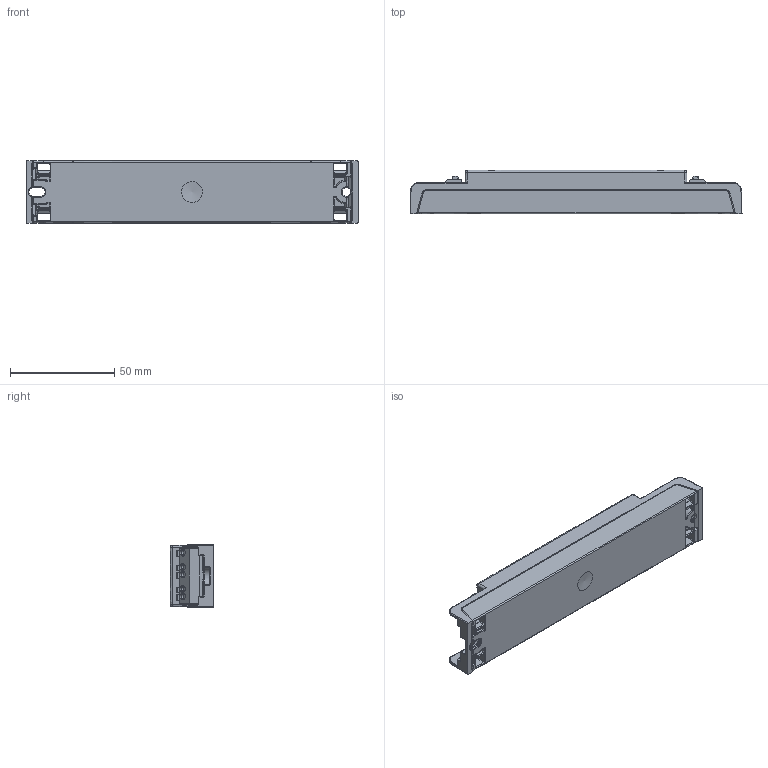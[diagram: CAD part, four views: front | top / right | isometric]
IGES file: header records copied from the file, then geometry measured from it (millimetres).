
Global section: file name: 28000882; native system: Autodesk Inventor 2017; preprocessor: unknown; author: muell; date: 20191230.110804; units: millimetre
Bounding box: 159 x 21 x 30 mm (x, y, z)
Volume: 78756.2 mm3; surface area: 22891.4 mm2
Topology: 1 solids, 1 shells, 1149 faces, 3120 edges, 1920 vertices
Faces by surface type: bspline 1149
